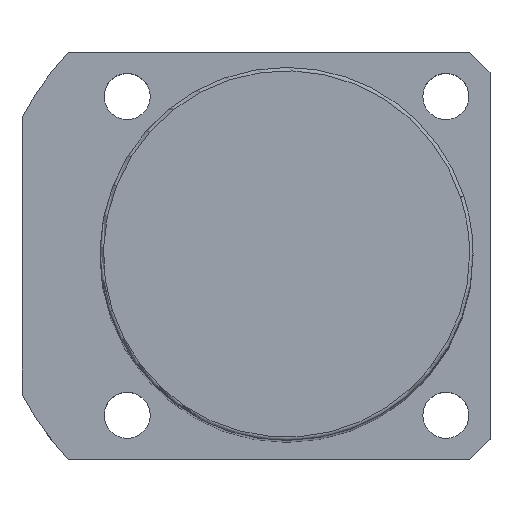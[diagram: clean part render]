
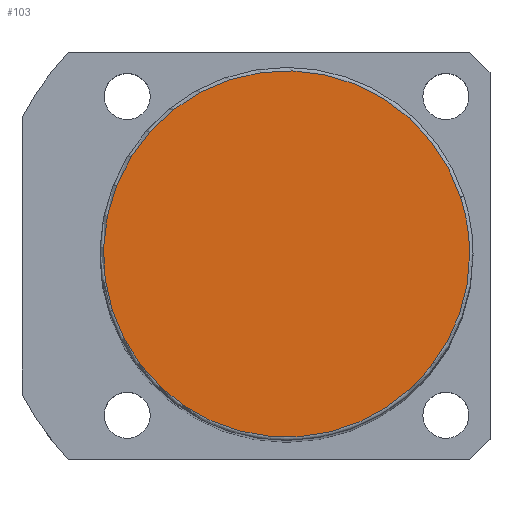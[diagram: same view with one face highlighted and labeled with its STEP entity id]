
A CAD part, top view. The second image highlights one B-rep face of the part: STEP entity #103.
In plain terms, the highlighted planar face has unit normal (0, 0, 1).
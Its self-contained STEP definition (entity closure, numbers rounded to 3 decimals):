
#16=CARTESIAN_POINT('',(-25.679,-8.343,176.0));
#17=VERTEX_POINT('',#16);
#54=CARTESIAN_POINT('',(25.679,8.343,176.0));
#55=VERTEX_POINT('',#54);
#63=CARTESIAN_POINT('',(27.0,0.0,176.0));
#64=VERTEX_POINT('',#63);
#65=CARTESIAN_POINT('',(0.0,0.0,176.0));
#66=DIRECTION('',(0.0,0.0,1.0));
#67=DIRECTION('',(1.0,0.0,0.0));
#68=AXIS2_PLACEMENT_3D('',#65,#66,#67);
#69=CIRCLE('',#68,27.0);
#70=EDGE_CURVE('no 898',#64,#55,#69,.T.);
#72=CARTESIAN_POINT('',(0.0,0.0,176.0));
#73=DIRECTION('',(0.0,0.0,1.0));
#74=DIRECTION('',(1.0,0.0,0.0));
#75=AXIS2_PLACEMENT_3D('',#72,#73,#74);
#76=CIRCLE('',#75,27.0);
#77=EDGE_CURVE('no 902',#17,#64,#76,.T.);
#87=ORIENTED_EDGE('',*,*,#70,.T.);
#88=CARTESIAN_POINT('',(0.0,0.0,176.0));
#89=DIRECTION('',(0.0,0.0,1.0));
#90=DIRECTION('',(1.0,0.0,0.0));
#91=AXIS2_PLACEMENT_3D('',#88,#89,#90);
#92=CIRCLE('',#91,27.0);
#93=EDGE_CURVE('no 911',#55,#17,#92,.T.);
#94=ORIENTED_EDGE('',*,*,#93,.T.);
#95=ORIENTED_EDGE('',*,*,#77,.T.);
#96=EDGE_LOOP('',(#87,#94,#95));
#97=FACE_OUTER_BOUND('',#96,.T.);
#98=CARTESIAN_POINT('',(0.0,0.0,176.0));
#99=DIRECTION('',(0.0,0.0,1.0));
#100=DIRECTION('',(1.0,0.0,0.0));
#101=AXIS2_PLACEMENT_3D('',#98,#99,#100);
#102=PLANE('',#101);
#103=ADVANCED_FACE('no 904',(#97),#102,.T.);
